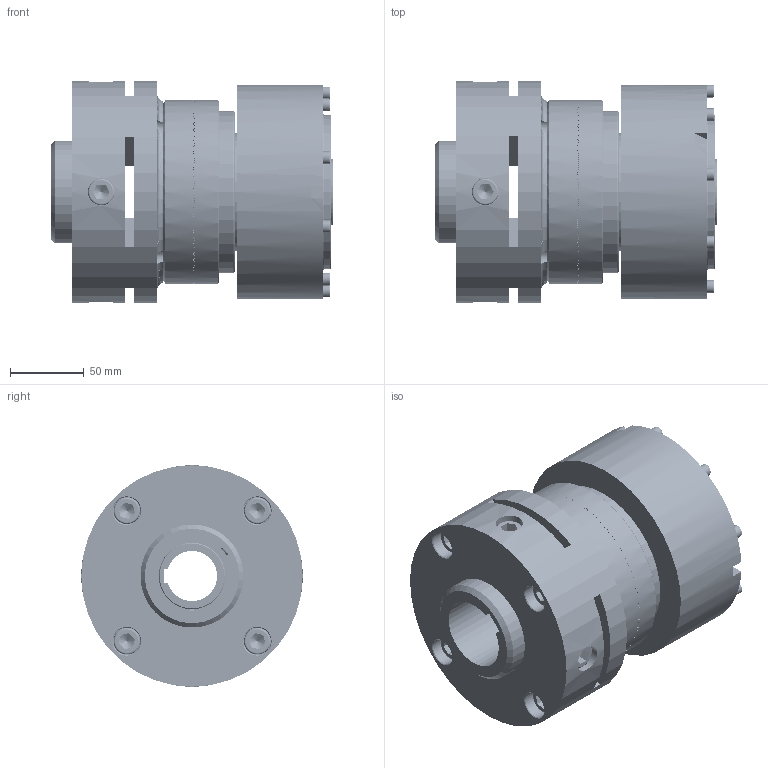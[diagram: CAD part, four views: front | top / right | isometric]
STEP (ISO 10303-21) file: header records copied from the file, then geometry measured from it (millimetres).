
FILE_DESCRIPTION(/* description */ (''),/* implementation_level */ '2;1');
FILE_NAME(/* name */ 'T:\INVENTOR\DISEGNI\03_Friz_Oleod_Pneum_Cil_Stat\03_62 DPG-N\03_62_03_01 DPG-N03\03_62_03_01 DPG-N03@STEP.stp',/* time_stamp */ '2022-06-14T16:59:53+02:00',/* author */ ('w.sartori'),/* organization */ (''),/* preprocessor_version */ 'ST-DEVELOPER v18.1',/* originating_system */ 'Autodesk Inventor 2021',/* authorisation */ '');
FILE_SCHEMA (('AUTOMOTIVE_DESIGN { 1 0 10303 214 3 1 1 }'));
Products named in the file (1): 03_62_03_01 DPG-N03
Bounding box: 191 x 150 x 150 mm (x, y, z)
Volume: 2122200.8 mm3; surface area: 418533.2 mm2
Topology: 1 solids, 43 shells, 3578 faces, 10552 edges, 6998 vertices
Faces by surface type: plane 2585, cylinder 470, torus 275, bspline 136, cone 71, sphere 41
Full cylindrical faces by diameter (mm): 2.5 x4, 3 x2, 3.5 x2, 4.134 x9, 4.917 x3, 5 x13, 5.25 x4, 5.3 x9, 6 x4, 6.5 x3, 8.5 x9, 8.566 x1, 9.5 x12, 10 x3, 10.106 x8, 10.5 x3, 12 x8, 12.5 x8, 18 x8, 18.5 x8, 42.5 x2, 45 x8, 53 x1, 54.6 x3, 55 x1, 56 x1, 57.8 x2, 65.4 x3, 66.5 x1, 67 x1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
Entity records: 154465 total; most frequent: CARTESIAN_POINT 52265, DIRECTION 22413, ORIENTED_EDGE 20874, EDGE_CURVE 10437, AXIS2_PLACEMENT_3D 9643, VERTEX_POINT 6998, EDGE_LOOP 3853, FACE_OUTER_BOUND 3578
